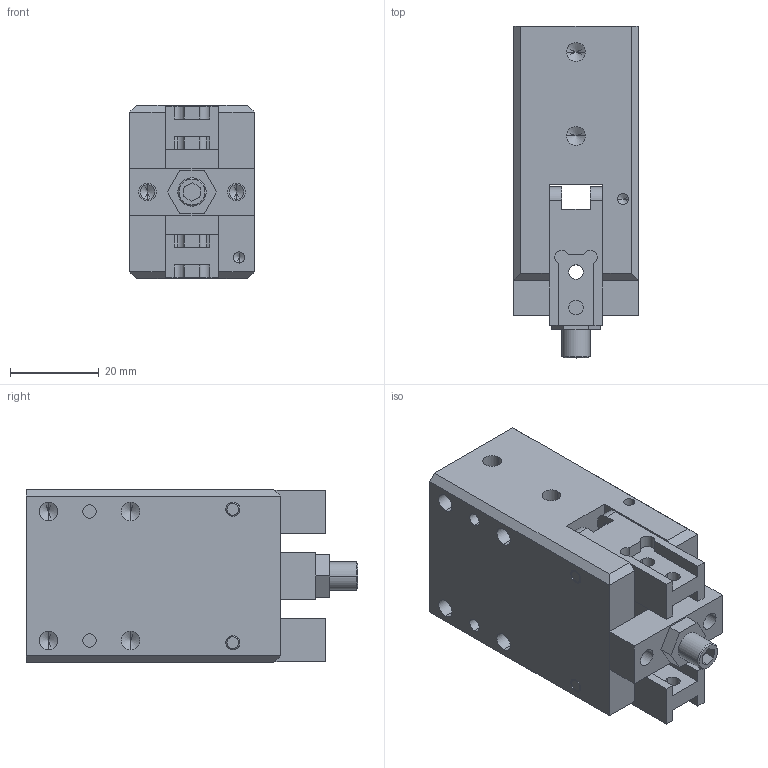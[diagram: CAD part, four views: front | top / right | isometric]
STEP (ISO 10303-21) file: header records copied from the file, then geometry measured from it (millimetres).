
FILE_DESCRIPTION (( 'STEP AP203' ), '1' );
FILE_NAME ('AGA-20 CLOSED in IN.STEP', '2014-11-25T14:41:27', ( 'setup' ), ( '' ), 'SwSTEP 2.0', 'SolidWorks 2013', '' );
FILE_SCHEMA (( 'CONFIG_CONTROL_DESIGN' ));
Length unit declared in the file: inch
Products named in the file (5): AGA-20 JAW; AGA-20 PIN; AGA-20 BODY; AGA-20 ADJMENT BLOCK; AGA-20 CLOSED in IN
Assembly tree (6 placements, depth 2):
  AGA-20 CLOSED in IN
    AGA-20 BODY
    AGA-20 JAW  x2
    AGA-20 PIN  x2
    AGA-20 ADJMENT BLOCK
Bounding box: 27.99 x 74.6 x 38.99 mm (x, y, z)
Volume: 56312.4 mm3; surface area: 18678.7 mm2
Topology: 6 solids, 6 shells, 236 faces, 594 edges, 358 vertices
Faces by surface type: cylinder 110, plane 84, cone 42
Entity records: 5996 total; most frequent: DIRECTION 989, CARTESIAN_POINT 935, ORIENTED_EDGE 874, EDGE_CURVE 437, AXIS2_PLACEMENT_3D 362, VERTEX_POINT 276, LINE 265, VECTOR 265
